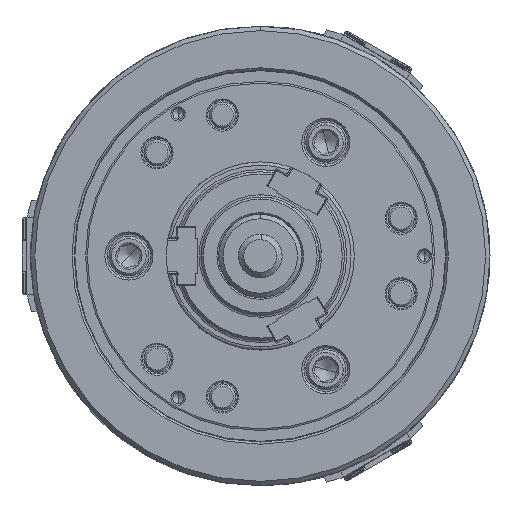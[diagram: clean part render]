
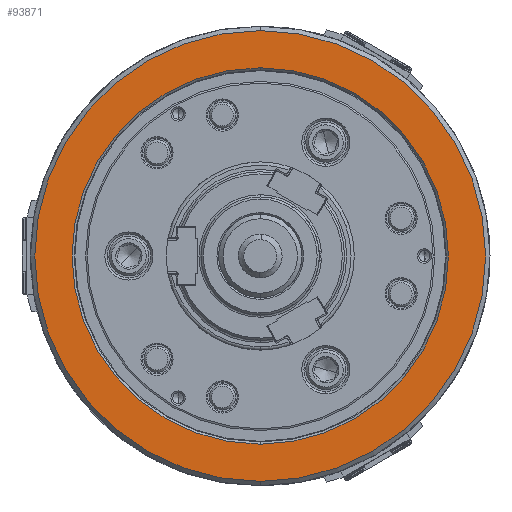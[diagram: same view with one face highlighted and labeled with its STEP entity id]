
A CAD part, left-side view. The second image highlights one B-rep face of the part: STEP entity #93871.
In plain terms, the highlighted planar face has unit normal (-1, 0, 0).
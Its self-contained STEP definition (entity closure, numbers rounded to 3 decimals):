
#3707 = VERTEX_POINT ( 'NONE', #91395 ) ;
#6060 = CIRCLE ( 'NONE', #57411, 103. ) ;
#6094 = DIRECTION ( 'NONE',  ( 0., 0., -1. ) ) ;
#14411 = CIRCLE ( 'NONE', #49806, 86. ) ;
#14529 = DIRECTION ( 'NONE',  ( 0., 0., -1. ) ) ;
#16587 = CARTESIAN_POINT ( 'NONE',  ( -85., -103., 0. ) ) ;
#16794 = VERTEX_POINT ( 'NONE', #73670 ) ;
#17211 = VERTEX_POINT ( 'NONE', #31389 ) ;
#18813 = DIRECTION ( 'NONE',  ( 1., 0., 0. ) ) ;
#24270 = CARTESIAN_POINT ( 'NONE',  ( -85., 0., 0. ) ) ;
#31389 = CARTESIAN_POINT ( 'NONE',  ( -85., 0., 86. ) ) ;
#31843 = DIRECTION ( 'NONE',  ( 1., 0., 0. ) ) ;
#32148 = DIRECTION ( 'NONE',  ( 1., 0., 0. ) ) ;
#32277 = DIRECTION ( 'NONE',  ( 1., 0., 0. ) ) ;
#38093 = ORIENTED_EDGE ( 'NONE', *, *, #93768, .F. ) ;
#40119 = EDGE_CURVE ( 'NONE', #16794, #17211, #14411, .T. ) ;
#40427 = ORIENTED_EDGE ( 'NONE', *, *, #50195, .T. ) ;
#42103 = FACE_OUTER_BOUND ( 'NONE', #80484, .T. ) ;
#44292 = PLANE ( 'NONE',  #48645 ) ;
#44402 = ORIENTED_EDGE ( 'NONE', *, *, #40119, .T. ) ;
#46109 = AXIS2_PLACEMENT_3D ( 'NONE', #73987, #31843, #47925 ) ;
#47925 = DIRECTION ( 'NONE',  ( 0., 0., -1. ) ) ;
#48645 = AXIS2_PLACEMENT_3D ( 'NONE', #16587, #18813, #68131 ) ;
#49210 = DIRECTION ( 'NONE',  ( 0., 0., -1. ) ) ;
#49216 = VERTEX_POINT ( 'NONE', #99409 ) ;
#49806 = AXIS2_PLACEMENT_3D ( 'NONE', #89375, #32277, #14529 ) ;
#50195 = EDGE_CURVE ( 'NONE', #17211, #16794, #79758, .T. ) ;
#57411 = AXIS2_PLACEMENT_3D ( 'NONE', #67051, #32148, #6094 ) ;
#60915 = FACE_BOUND ( 'NONE', #107775, .T. ) ;
#62870 = ORIENTED_EDGE ( 'NONE', *, *, #106221, .F. ) ;
#67051 = CARTESIAN_POINT ( 'NONE',  ( -85., 0., 0. ) ) ;
#68131 = DIRECTION ( 'NONE',  ( 0., 0., -1. ) ) ;
#73670 = CARTESIAN_POINT ( 'NONE',  ( -85., 0., -86. ) ) ;
#73987 = CARTESIAN_POINT ( 'NONE',  ( -85., 0., 0. ) ) ;
#79758 = CIRCLE ( 'NONE', #46109, 86. ) ;
#80484 = EDGE_LOOP ( 'NONE', ( #62870, #38093 ) ) ;
#85673 = CIRCLE ( 'NONE', #106952, 103. ) ;
#89375 = CARTESIAN_POINT ( 'NONE',  ( -85., 0., 0. ) ) ;
#91395 = CARTESIAN_POINT ( 'NONE',  ( -85., 0., 103. ) ) ;
#91837 = DIRECTION ( 'NONE',  ( 1., 0., 0. ) ) ;
#93768 = EDGE_CURVE ( 'NONE', #3707, #49216, #6060, .T. ) ;
#93871 = ADVANCED_FACE ( 'NONE', ( #42103, #60915 ), #44292, .F. ) ;
#99409 = CARTESIAN_POINT ( 'NONE',  ( -85., 0., -103. ) ) ;
#106221 = EDGE_CURVE ( 'NONE', #49216, #3707, #85673, .T. ) ;
#106952 = AXIS2_PLACEMENT_3D ( 'NONE', #24270, #91837, #49210 ) ;
#107775 = EDGE_LOOP ( 'NONE', ( #40427, #44402 ) ) ;
